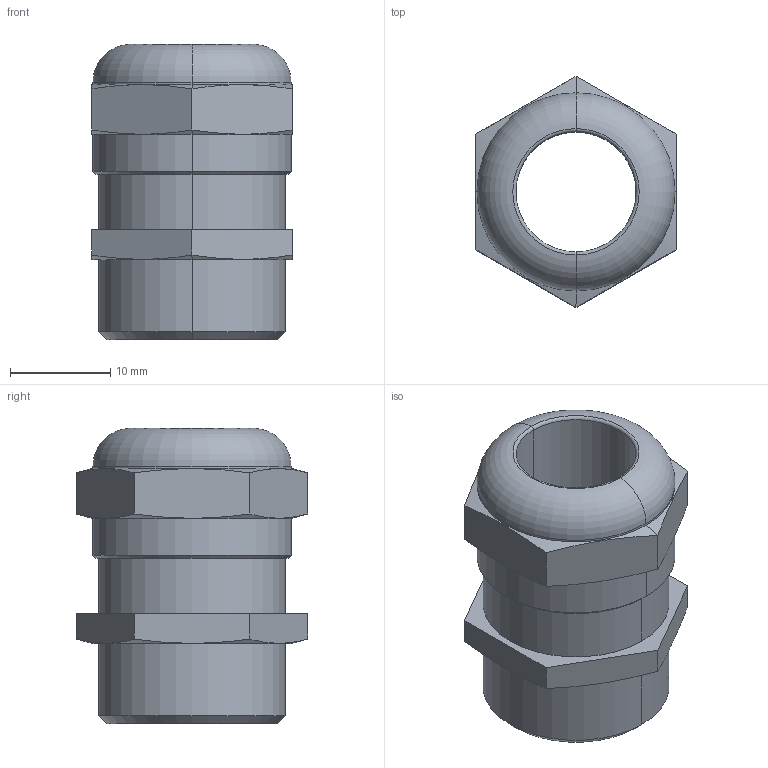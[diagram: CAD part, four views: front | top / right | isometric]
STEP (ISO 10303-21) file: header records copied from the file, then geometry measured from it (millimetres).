
FILE_DESCRIPTION (( 'STEP AP203' ), '1' );
FILE_NAME ('101180-5-12.STEP', '2006-10-12T13:10:56', ( ' ' ), ( '' ), 'SwSTEP 2.0', 'SolidWorks 2005278', '' );
FILE_SCHEMA (( 'CONFIG_CONTROL_DESIGN' ));
Length unit declared in the file: millimetre
Products named in the file (1): 101180-5-12
Bounding box: 20 x 23.09 x 29.49 mm (x, y, z)
Volume: 5353.1 mm3; surface area: 3388.5 mm2
Topology: 1 solids, 1 shells, 77 faces, 190 edges, 120 vertices
Faces by surface type: plane 53, cone 10, cylinder 10, torus 4
Entity records: 2431 total; most frequent: CARTESIAN_POINT 538, ORIENTED_EDGE 380, DIRECTION 360, EDGE_CURVE 190, VECTOR 140, LINE 140, VERTEX_POINT 120, AXIS2_PLACEMENT_3D 110
